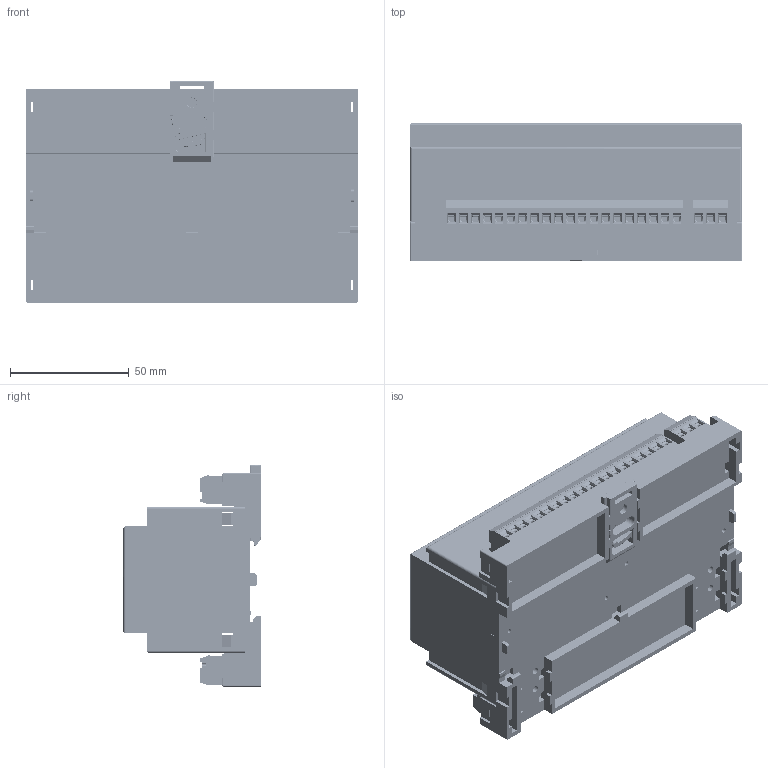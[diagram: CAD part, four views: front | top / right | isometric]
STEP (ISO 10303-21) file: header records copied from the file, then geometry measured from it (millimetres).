
FILE_DESCRIPTION (( 'STEP AP214' ), '1' );
FILE_NAME ('11250-1901-00_3D.STEP', '2014-10-31T06:53:29', ( '' ), ( '' ), 'SwSTEP 2.0', 'SolidWorks 2014', '' );
FILE_SCHEMA (( 'AUTOMOTIVE_DESIGN' ));
Length unit declared in the file: millimetre
Products named in the file (11): 31137103; 31137119; 31137106; 31137110; V-Riegel_3D; V8_Oberteil; V8_Leiterplatte; V8_Frontplatte; 11250-1204-00_3D; V8_Unterteil; 11250-1901-00_3D
Assembly tree (11 placements, depth 2):
  11250-1901-00_3D
    V8_Unterteil
    11250-1204-00_3D
    V8_Frontplatte
    V8_Leiterplatte
    V8_Oberteil
    V-Riegel_3D
    31137110  x2
    31137106
    31137119
    31137103
Bounding box: 140 x 58 x 93.34 mm (x, y, z)
Volume: 133534.1 mm3; surface area: 155399.2 mm2
Topology: 640 solids, 640 shells, 11503 faces, 30204 edges, 20017 vertices
Faces by surface type: plane 9071, bspline 1246, cylinder 879, cone 236, torus 57, sphere 14
Full cylindrical faces by diameter (mm): 1.5 x33, 1.8 x4, 2 x52, 2.25 x29, 2.4 x29, 2.7 x29, 2.8 x1, 3 x64, 3.5 x4, 3.55 x19, 3.9 x29, 3.95 x19, 4.2 x1, 4.5 x4
Entity records: 364297 total; most frequent: CARTESIAN_POINT 98979, ORIENTED_EDGE 53704, DIRECTION 44900, EDGE_CURVE 26852, LINE 22034, VECTOR 22034, VERTEX_POINT 18031, EDGE_LOOP 11863
